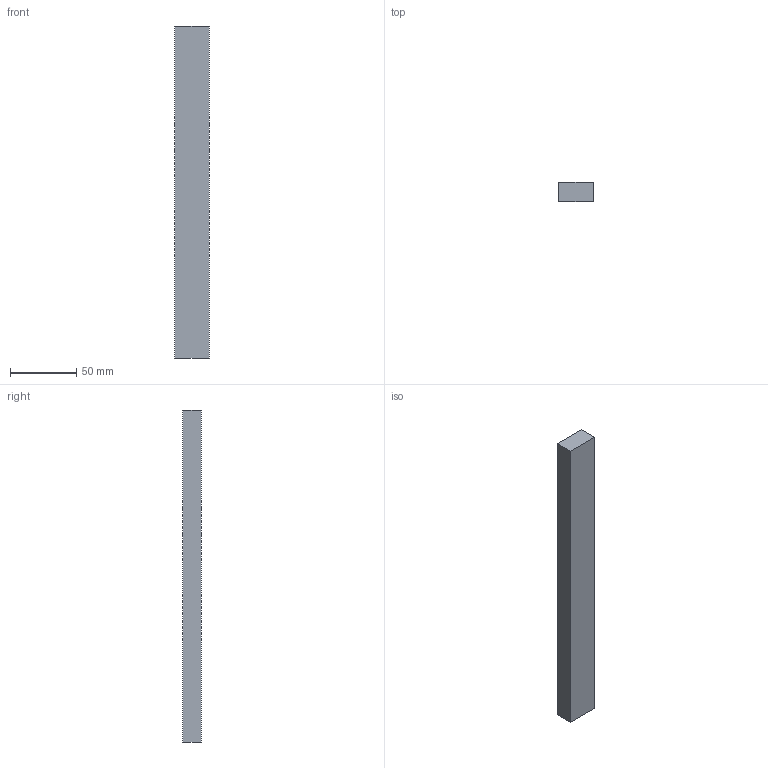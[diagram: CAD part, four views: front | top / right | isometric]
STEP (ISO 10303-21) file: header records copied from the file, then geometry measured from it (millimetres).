
FILE_DESCRIPTION (( 'STEP AP214' ), '1' );
FILE_NAME ('CJR-C.step', '2017-04-05T07:36:03', ( '' ), ( '' ), 'SwSTEP 2.0', 'SolidWorks 2015', '' );
FILE_SCHEMA (( 'AUTOMOTIVE_DESIGN' ));
Length unit declared in the file: millimetre
Products named in the file (1): CJR-C
Bounding box: 26 x 14 x 250 mm (x, y, z)
Volume: 91000 mm3; surface area: 20728 mm2
Topology: 1 solids, 1 shells, 6 faces, 12 edges, 8 vertices
Faces by surface type: plane 6
Entity records: 190 total; most frequent: CARTESIAN_POINT 27, DIRECTION 26, ORIENTED_EDGE 24, VECTOR 12, EDGE_CURVE 12, LINE 12, VERTEX_POINT 8, AXIS2_PLACEMENT_3D 7
